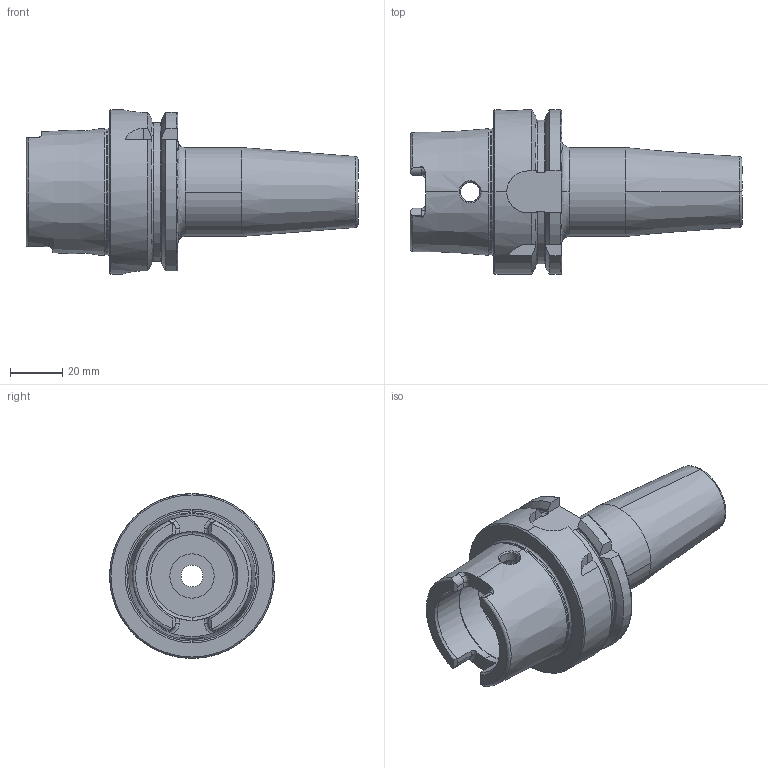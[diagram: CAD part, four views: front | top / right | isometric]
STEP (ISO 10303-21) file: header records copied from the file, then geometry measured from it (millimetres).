
FILE_DESCRIPTION (( 'STEP AP214' ), '1' );
FILE_NAME ('04-0488.STEP', '2021-08-03T19:07:30', ( '' ), ( '' ), 'SwSTEP 2.0', 'SolidWorks 2020', '' );
FILE_SCHEMA (( 'AUTOMOTIVE_DESIGN' ));
Length unit declared in the file: inch
Products named in the file (1): 04-0488
Bounding box: 127 x 63 x 63 mm (x, y, z)
Volume: 124591.1 mm3; surface area: 31819.6 mm2
Topology: 1 solids, 1 shells, 153 faces, 409 edges, 260 vertices
Faces by surface type: cylinder 49, bspline 41, plane 41, cone 22
Entity records: 8375 total; most frequent: CARTESIAN_POINT 4808, ORIENTED_EDGE 818, DIRECTION 656, EDGE_CURVE 409, AXIS2_PLACEMENT_3D 264, VERTEX_POINT 260, EDGE_LOOP 161, FACE_OUTER_BOUND 153
